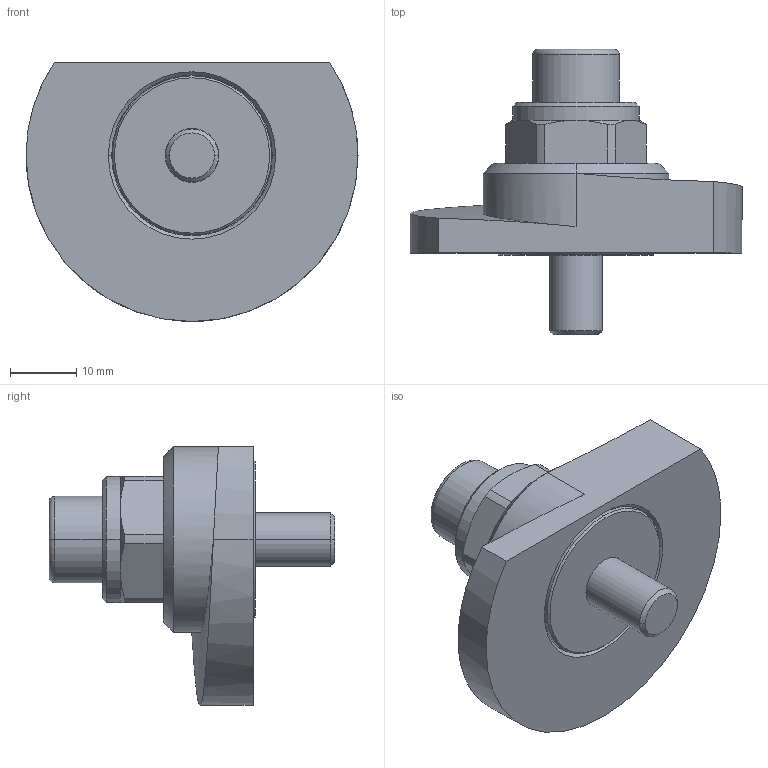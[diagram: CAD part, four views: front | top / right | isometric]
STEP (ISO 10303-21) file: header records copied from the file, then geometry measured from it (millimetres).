
FILE_DESCRIPTION (( 'STEP AP214' ), '1' );
FILE_NAME ('918.1-50-SKS-L-12.step', '2024-05-15T13:02:49', ( '' ), ( '' ), 'SwSTEP 2.0', 'SolidWorks 2022', '' );
FILE_SCHEMA (( 'AUTOMOTIVE_DESIGN' ));
Length unit declared in the file: millimetre
Products named in the file (1): 918.1-50-SKS-L-12
Bounding box: 50 x 43 x 39 mm (x, y, z)
Volume: 20705.2 mm3; surface area: 8630.2 mm2
Topology: 1 solids, 2 shells, 77 faces, 174 edges, 109 vertices
Faces by surface type: cylinder 25, plane 25, cone 22, bspline 3, torus 2
Entity records: 2537 total; most frequent: CARTESIAN_POINT 767, DIRECTION 379, ORIENTED_EDGE 348, EDGE_CURVE 174, AXIS2_PLACEMENT_3D 152, VERTEX_POINT 109, EDGE_LOOP 87, ADVANCED_FACE 77
